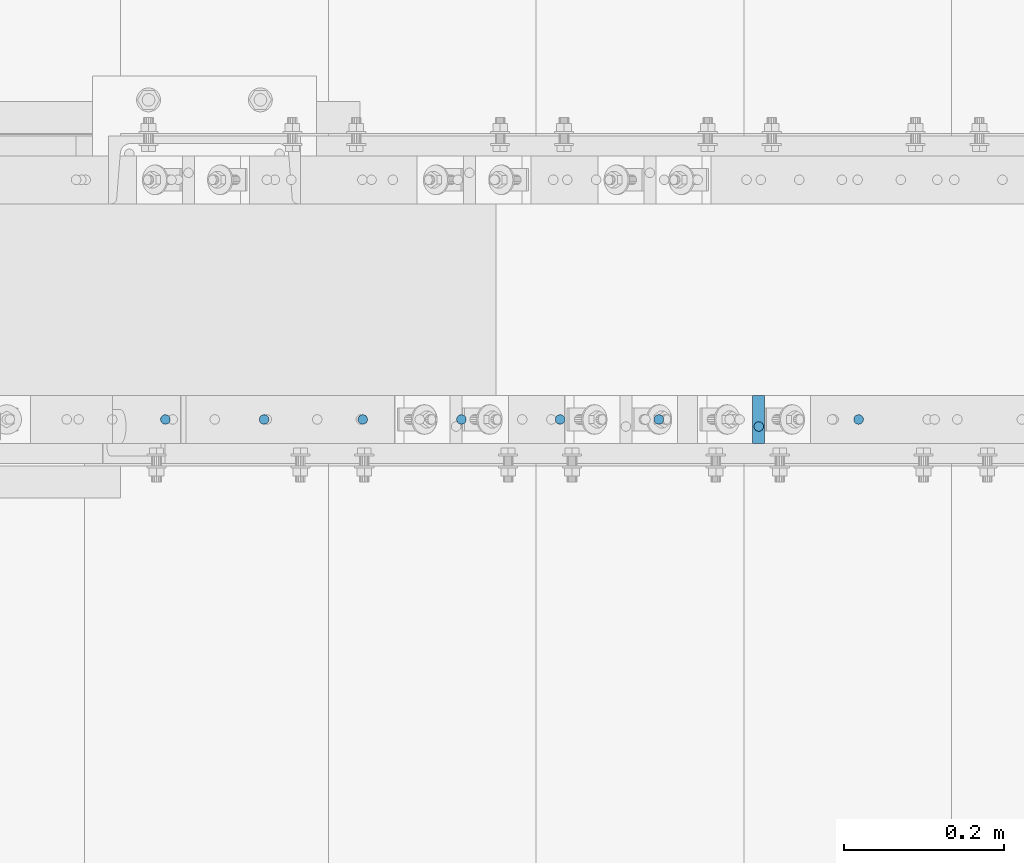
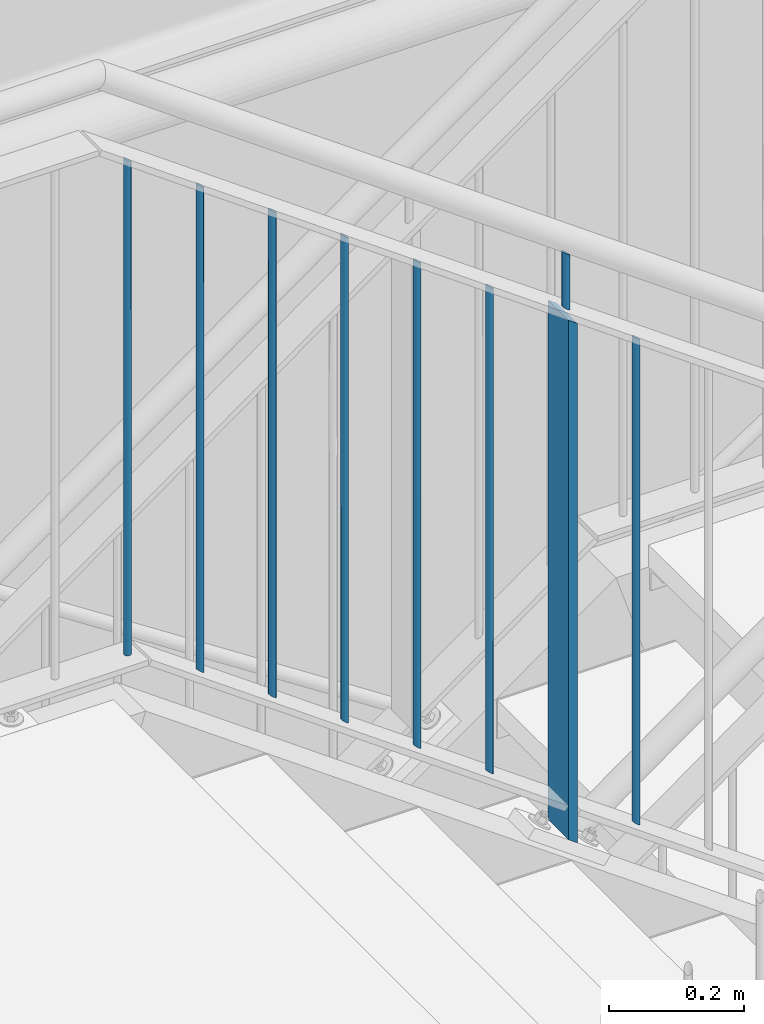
# One storey, part 51 of 831: 9 columns.
"""IFC2X3 building model written with IfcOpenShell, lengths in millimetres."""

import ifcopenshell
import ifcopenshell.guid

model = None  # the IFC model being written
_history = None  # IfcOwnerHistory: only IFC2X3 demands one
_inside = {}  # id of a spatial element -> (the spatial element, [elements in it])
_under = {}  # id of a project, library or spatial element -> (it, [spatial elements below it])
_declared = {}  # id of a project -> (the project, [libraries it declares])
_typed = {}  # id of a type object -> (the type object, [elements of that type])
_made_of = {}  # id of a material, layer set ... -> (it, [elements and type objects made of it])


def new_model(schema):
    """Start an empty IFC model of exactly this schema.

    Asked for "IFC4X3", IfcOpenShell would pick the latest addendum, in which some entities
    have other attributes; the version numbers below select the first issue.
    IFC2X3 requires an IfcOwnerHistory on every rooted entity: one is made here for all.
    """
    global model, _history
    if schema == "IFC4X3":
        model = ifcopenshell.file(schema_version=(4, 3, 0, 0))
    else:
        model = ifcopenshell.file(schema=schema)
    _inside.clear()
    _under.clear()
    _declared.clear()
    _typed.clear()
    _made_of.clear()
    _history = None
    if model.schema == "IFC2X3":
        org = make("IfcOrganization", Name="unknown")
        user = make(
            "IfcPersonAndOrganization",
            ThePerson=make("IfcPerson", FamilyName="unknown"),
            TheOrganization=org,
        )
        app = make(
            "IfcApplication",
            ApplicationDeveloper=org,
            Version="unknown",
            ApplicationFullName="unknown",
            ApplicationIdentifier="unknown",
        )
        _history = make(
            "IfcOwnerHistory",
            OwningUser=user,
            OwningApplication=app,
            ChangeAction="ADDED",
            CreationDate=0,
        )
    return model


def make(cls, **values):
    """One entity of the class cls with the attributes given. An attribute that is None is left unset."""
    return model.create_entity(
        cls, **{name: value for name, value in values.items() if value is not None}
    )


def entity(cls, *values):
    """Any entity or typed value of the class cls, its attributes in the order of the schema. None: left unset."""
    e = model.create_entity(cls)
    for i, value in enumerate(values):
        if value is not None:
            e[i] = value
    return e


def rooted(cls, **values):
    """An entity with a GlobalId (a new one), such as an element, a storey or a relation."""
    return make(cls, GlobalId=ifcopenshell.guid.new(), OwnerHistory=_history, **values)


def si_unit(unit_type, name, prefix=None):
    """IfcSIUnit, for example si_unit("LENGTHUNIT", "METRE", prefix="MILLI")."""
    return make("IfcSIUnit", UnitType=unit_type, Prefix=prefix, Name=name)


def converted_unit(unit_type, name, factor, base, dimensions=None, offset=None):
    """IfcConversionBasedUnit, such as the inch: factor (a typed value) times the base unit."""
    return make(
        "IfcConversionBasedUnit"
        if offset is None
        else "IfcConversionBasedUnitWithOffset",
        ConversionOffset=offset,
        Dimensions=None
        if dimensions is None
        else entity("IfcDimensionalExponents", *dimensions),
        UnitType=unit_type,
        Name=name,
        ConversionFactor=make(
            "IfcMeasureWithUnit", ValueComponent=factor, UnitComponent=base
        ),
    )


def assignment(units):
    """IfcUnitAssignment: the units of a project."""
    return None if units is None else make("IfcUnitAssignment", Units=units)


def point(xyz):
    """IfcCartesianPoint."""
    return None if xyz is None else make("IfcCartesianPoint", Coordinates=xyz)


def direction(xyz):
    """IfcDirection."""
    return None if xyz is None else make("IfcDirection", DirectionRatios=xyz)


def frame(location, z_axis=None, x_axis=None):
    """IfcAxis2Placement3D, a coordinate frame: its origin and axes. An axis left out is left unset."""
    return make(
        "IfcAxis2Placement3D",
        Location=point(location),
        Axis=direction(z_axis),
        RefDirection=direction(x_axis),
    )


def frame_2d(location, x_axis=None):
    """IfcAxis2Placement2D, a coordinate frame in the plane: its origin and x axis."""
    return make(
        "IfcAxis2Placement2D", Location=point(location), RefDirection=direction(x_axis)
    )


def origin():
    """The frame at (0, 0, 0) with its axes left unset."""
    return frame((0.0, 0.0, 0.0))


def origin_with_axes():
    """The frame at (0, 0, 0) with the z axis (0, 0, 1) and the x axis (1, 0, 0) written out."""
    return frame((0.0, 0.0, 0.0), z_axis=(0.0, 0.0, 1.0), x_axis=(1.0, 0.0, 0.0))


def origin_2d():
    """The frame at (0, 0) in the plane with its x axis left unset."""
    return frame_2d((0.0, 0.0))


def place(relative_to, where):
    """IfcLocalPlacement: puts the frame where relative to a parent placement (None: the world)."""
    return make(
        "IfcLocalPlacement", PlacementRelTo=relative_to, RelativePlacement=where
    )


def context(
    kind, dimensions, precision=None, world=None, true_north=None, identifier=None
):
    """IfcGeometricRepresentationContext, for example the 3D "Model" context."""
    return make(
        "IfcGeometricRepresentationContext",
        ContextIdentifier=identifier,
        ContextType=kind,
        CoordinateSpaceDimension=dimensions,
        Precision=precision,
        WorldCoordinateSystem=world,
        TrueNorth=true_north,
    )


def project(units=None, contexts=None):
    """IfcProject with its units and contexts."""
    return rooted(
        "IfcProject",
        Name="project",
        RepresentationContexts=contexts,
        UnitsInContext=assignment(units),
    )


def spatial(cls, under=None, at=None, **own):
    """A site, building, storey or space (cls), placed at a placement, below another one or the project."""
    s = rooted(cls, ObjectPlacement=at, **own)
    if under is not None:
        _under.setdefault(under.id(), (under, []))[1].append(s)
    return s


def profile(cls, at=None, kind="AREA", **sizes):
    """A parametric profile (cls). Its sizes go by their IFC names, for example OverallWidth=200.0."""
    return make(cls, ProfileType=kind, Position=at, **sizes)


def rectangle(**sizes):
    """IfcRectangleProfileDef."""
    return profile("IfcRectangleProfileDef", **sizes)


def circle(**sizes):
    """IfcCircleProfileDef."""
    return profile("IfcCircleProfileDef", **sizes)


def extrude(swept, where, along, depth):
    """IfcExtrudedAreaSolid: the profile swept, set in the frame where, extruded along a direction by depth."""
    return make(
        "IfcExtrudedAreaSolid",
        SweptArea=swept,
        Position=where,
        ExtrudedDirection=direction(along),
        Depth=depth,
    )


def clip(a, b, op="DIFFERENCE"):
    """IfcBooleanClippingResult: the solid a cut by the half space b."""
    return make(
        "IfcBooleanClippingResult", Operator=op, FirstOperand=a, SecondOperand=b
    )


def halfspace(plane, agree):
    """IfcHalfSpaceSolid: all space on one side of the plane z = 0 of the frame plane."""
    return make(
        "IfcHalfSpaceSolid",
        BaseSurface=make("IfcPlane", Position=plane),
        AgreementFlag=agree,
    )


def shape(context_of_items, identifier, shape_type, items):
    """IfcShapeRepresentation: the items that make up one representation, for example the "Body"."""
    return make(
        "IfcShapeRepresentation",
        ContextOfItems=context_of_items,
        RepresentationIdentifier=identifier,
        RepresentationType=shape_type,
        Items=items,
    )


def material(Name=None, Category=None):
    """IfcMaterial."""
    return make("IfcMaterial", Name=Name, Category=Category)


def made_of(thing, what):
    """Note that an element or type object is made of a material, layer set ...; save() writes the relation."""
    if what is not None:
        _made_of.setdefault(what.id(), (what, []))[1].append(thing)
    return thing


def element(
    cls,
    number,
    at=None,
    inside=None,
    cuts=None,
    type_object=None,
    material=None,
    context=None,
    identifier="Body",
    shape_type=None,
    held_by="IfcProductDefinitionShape",
    body=None,
    shapes=None,
    **own,
):
    """One element of the class cls, such as IfcWall. Its Tag is "e" and its number.

    at: its placement. inside: the storey or other place that contains it. cuts: it is an
    opening in that element (IfcRelVoidsElement). A single representation is given by context,
    identifier, shape_type and body (its items); several are given by shapes. held_by: the class
    of the entity that holds the representations. save() writes the other relations.
    """
    e = rooted(cls, Tag="e%d" % number, ObjectPlacement=at, **own)
    if body is not None:
        shapes = [shape(context, identifier, shape_type, body)]
    if shapes is not None:
        e.Representation = make(held_by, Representations=shapes)
    if inside is not None:
        _inside.setdefault(inside.id(), (inside, []))[1].append(e)
    if cuts is not None:
        rooted(
            "IfcRelVoidsElement", RelatingBuildingElement=cuts, RelatedOpeningElement=e
        )
    if type_object is not None:
        _typed.setdefault(type_object.id(), (type_object, []))[1].append(e)
    return made_of(e, material)


def aggregate(whole, parts):
    """IfcRelAggregates: a whole, such as a stair, and the parts it consists of."""
    return rooted("IfcRelAggregates", RelatingObject=whole, RelatedObjects=parts)


def save(model, path):
    """Write the relations noted so far, then the file.

    IfcRelAggregates (storeys below a building ...), IfcRelContainedInSpatialStructure (elements
    in a storey), IfcRelDefinesByType, IfcRelAssociatesMaterial and IfcRelDeclares: one each for
    every whole, place, type object, material and project.
    """
    for whole, parts in _under.values():
        aggregate(whole, parts)
    for where, things in _inside.values():
        rooted(
            "IfcRelContainedInSpatialStructure",
            RelatedElements=things,
            RelatingStructure=where,
        )
    for kind, things in _typed.values():
        rooted("IfcRelDefinesByType", RelatedObjects=things, RelatingType=kind)
    for what, things in _made_of.values():
        rooted("IfcRelAssociatesMaterial", RelatedObjects=things, RelatingMaterial=what)
    for by, libraries in _declared.values():
        rooted("IfcRelDeclares", RelatingContext=by, RelatedDefinitions=libraries)
    model.write(path)


model = new_model("IFC2X3")

# Units and contexts
model_context = context("Model", 3, precision=1e-09, world=origin_with_axes())
ifc_project = project(units=[si_unit("LENGTHUNIT", "METRE", prefix="MILLI"), si_unit("AREAUNIT", "SQUARE_METRE"), si_unit("VOLUMEUNIT", "CUBIC_METRE"), converted_unit("PLANEANGLEUNIT", "DEGREE", entity("IfcPlaneAngleMeasure", 0.01745329), si_unit("PLANEANGLEUNIT", "RADIAN"), dimensions=[0, 0, 0, 0, 0, 0, 0])], contexts=[model_context])

# Site, building, storey
site_placement = place(None, origin_with_axes())
site = spatial("IfcSite", under=ifc_project, at=site_placement, Name="Site", CompositionType="ELEMENT")
building_placement = place(site_placement, origin_with_axes())
building = spatial("IfcBuilding", under=site, at=building_placement, Name="Struktur 1", CompositionType="ELEMENT")
storey_placement = place(building_placement, origin_with_axes())
storey = spatial("IfcBuildingStorey", under=building, at=storey_placement, Name="Default Storey", CompositionType="ELEMENT", Elevation=0.0)

# Columns
ifc_material = material(Name="S235JR")
column_1_placement = place(None, frame((6035.464152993, 5791.736971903, 18298.73407658), z_axis=(0.0, 0.0, 1.0), x_axis=(-1.0, 0.0, 0.0)))
element("IfcColumn", 1, at=column_1_placement, inside=storey, material=ifc_material, Name="Railing_Post_Stair#1", ObjectType="Railing_Post_Stair#1", context=model_context, shape_type="Clipping", body=[
    clip(clip(extrude(rectangle(XDim=15.0, YDim=60.0, at=origin_2d()), origin(), (0.0, 0.0, -1.0), 1013.117713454), halfspace(frame((-4238.110335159, 5791.736971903, -4025.523715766), z_axis=(-0.584187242, 0.0, 0.811618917), x_axis=(0.0, -1.0, 0.0)), True)), halfspace(frame((-4682.336196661, 5791.736971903, -3408.354961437), z_axis=(0.584187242, 0.0, -0.811618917), x_axis=(0.0, 1.0, 0.0)), True)),
])
column_2_placement = place(None, frame((6160.494152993, 5791.736971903, 18181.093962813), z_axis=(0.0, 0.0, 1.0), x_axis=(-1.0, 0.0, 0.0)))
element("IfcColumn", 2, at=column_2_placement, inside=storey, material=ifc_material, Name="Railing_Picket_Stair#6", ObjectType="Railing_Picket_Stair#6", context=model_context, shape_type="Clipping", body=[
    clip(clip(extrude(circle(Radius=6.0, at=origin_2d()), origin(), (0.0, 0.0, -1.0), 896.220460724), halfspace(frame((-4557.306196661, 5791.736971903, -3290.71484767), z_axis=(0.584187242, 0.0, -0.811618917), x_axis=(0.0, 1.0, 0.0)), True)), halfspace(frame((-4142.289697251, 5791.736971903, -3867.302656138), z_axis=(-0.584187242, 0.0, 0.811618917), x_axis=(0.0, -1.0, 0.0)), True)),
])
column_3_placement = place(None, frame((5910.434152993, 5791.736971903, 18361.08220453), z_axis=(0.0, 0.0, 1.0), x_axis=(-1.0, 0.0, 0.0)))
element("IfcColumn", 3, at=column_3_placement, inside=storey, material=ifc_material, Name="Railing_Picket_Stair#7", ObjectType="Railing_Picket_Stair#7", context=model_context, shape_type="Clipping", body=[
    clip(clip(extrude(circle(Radius=6.0, at=origin_2d()), origin(), (0.0, 0.0, -1.0), 896.220460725), halfspace(frame((-4807.366196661, 5791.736971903, -3470.703089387), z_axis=(0.584187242, 0.0, -0.811618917), x_axis=(0.0, 1.0, 0.0)), True)), halfspace(frame((-4392.349697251, 5791.736971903, -4047.290897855), z_axis=(-0.584187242, 0.0, 0.811618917), x_axis=(0.0, -1.0, 0.0)), True)),
])
column_4_placement = place(None, frame((5786.90244466, 5791.736971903, 18449.997884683), z_axis=(0.0, 0.0, 1.0), x_axis=(-1.0, 0.0, 0.0)))
element("IfcColumn", 4, at=column_4_placement, inside=storey, material=ifc_material, Name="Railing_Picket_Stair#8", ObjectType="Railing_Picket_Stair#8", context=model_context, shape_type="Clipping", body=[
    clip(clip(extrude(circle(Radius=6.0, at=origin_2d()), origin(), (0.0, 0.0, -1.0), 896.220460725), halfspace(frame((-4930.897904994, 5791.736971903, -3559.618769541), z_axis=(0.584187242, 0.0, -0.811618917), x_axis=(0.0, 1.0, 0.0)), True)), halfspace(frame((-4515.881405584, 5791.736971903, -4136.206578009), z_axis=(-0.584187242, 0.0, 0.811618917), x_axis=(0.0, -1.0, 0.0)), True)),
])
column_5_placement = place(None, frame((5663.370736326, 5791.736971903, 18538.913564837), z_axis=(0.0, 0.0, 1.0), x_axis=(-1.0, 0.0, 0.0)))
element("IfcColumn", 5, at=column_5_placement, inside=storey, material=ifc_material, Name="Railing_Picket_Stair#9", ObjectType="Railing_Picket_Stair#9", context=model_context, shape_type="Clipping", body=[
    clip(clip(extrude(circle(Radius=6.0, at=origin_2d()), origin(), (0.0, 0.0, -1.0), 896.220460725), halfspace(frame((-5054.429613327, 5791.736971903, -3648.534449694), z_axis=(0.584187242, 0.0, -0.811618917), x_axis=(0.0, 1.0, 0.0)), True)), halfspace(frame((-4639.413113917, 5791.736971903, -4225.122258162), z_axis=(-0.584187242, 0.0, 0.811618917), x_axis=(0.0, -1.0, 0.0)), True)),
])
column_6_placement = place(None, frame((5539.839027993, 5791.736971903, 18627.829244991), z_axis=(0.0, 0.0, 1.0), x_axis=(-1.0, 0.0, 0.0)))
element("IfcColumn", 6, at=column_6_placement, inside=storey, material=ifc_material, Name="Railing_Picket_Stair#10", ObjectType="Railing_Picket_Stair#10", context=model_context, shape_type="Clipping", body=[
    clip(clip(extrude(circle(Radius=6.0, at=origin_2d()), origin(), (0.0, 0.0, -1.0), 896.220460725), halfspace(frame((-5177.961321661, 5791.736971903, -3737.450129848), z_axis=(0.584187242, 0.0, -0.811618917), x_axis=(0.0, 1.0, 0.0)), True)), halfspace(frame((-4762.944822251, 5791.736971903, -4314.037938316), z_axis=(-0.584187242, 0.0, 0.811618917), x_axis=(0.0, -1.0, 0.0)), True)),
])
column_7_placement = place(None, frame((5416.30731966, 5791.736971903, 18716.744925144), z_axis=(0.0, 0.0, 1.0), x_axis=(-1.0, 0.0, 0.0)))
element("IfcColumn", 7, at=column_7_placement, inside=storey, material=ifc_material, Name="Railing_Picket_Stair#11", ObjectType="Railing_Picket_Stair#11", context=model_context, shape_type="Clipping", body=[
    clip(clip(extrude(circle(Radius=6.0, at=origin_2d()), origin(), (0.0, 0.0, -1.0), 896.220460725), halfspace(frame((-5301.493029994, 5791.736971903, -3826.365810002), z_axis=(0.584187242, 0.0, -0.811618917), x_axis=(0.0, 1.0, 0.0)), True)), halfspace(frame((-4886.476530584, 5791.736971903, -4402.95361847), z_axis=(-0.584187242, 0.0, 0.811618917), x_axis=(0.0, -1.0, 0.0)), True)),
])
column_8_placement = place(None, frame((5292.775611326, 5791.736971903, 18805.660605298), z_axis=(0.0, 0.0, 1.0), x_axis=(-1.0, 0.0, 0.0)))
element("IfcColumn", 8, at=column_8_placement, inside=storey, material=ifc_material, Name="Railing_Picket_Landing#12", ObjectType="Railing_Picket_Landing#12", context=model_context, shape_type="Clipping", body=[
    clip(extrude(circle(Radius=6.0, at=origin_2d()), origin(), (0.0, 0.0, -1.0), 901.660605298), halfspace(frame((-5425.024738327, 5791.736971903, -3915.281490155), z_axis=(0.584187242, 0.0, -0.811618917), x_axis=(0.0, 1.0, 0.0)), True)),
])
column_9_placement = place(None, frame((6035.464152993, 5782.936971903, 18383.409137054), z_axis=(0.0, 0.0, 1.0), x_axis=(0.0, 1.0, 0.0)))
element("IfcColumn", 9, at=column_9_placement, inside=storey, material=ifc_material, Name="Bar#1", ObjectType="Bar#1", context=model_context, shape_type="Clipping", body=[
    clip(clip(extrude(circle(Radius=6.0, at=origin_2d()), origin(), (0.0, 0.0, -1.0), 120.909520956), halfspace(frame((-5782.936971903, -4688.179237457, -3484.912209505), z_axis=(0.0, -0.584187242, 0.811618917), x_axis=(1.0, 0.0, 0.0)), True)), halfspace(frame((-5782.936971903, -4735.591810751, -3419.041306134), z_axis=(0.0, 0.584187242, -0.811618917), x_axis=(-1.0, 0.0, 0.0)), True)),
])

save(model, "model.ifc")
